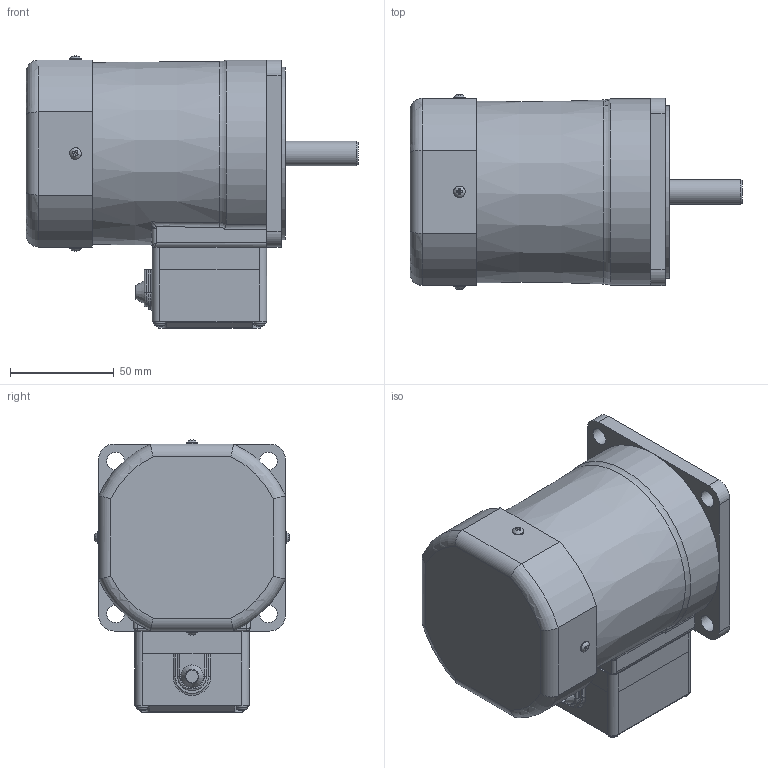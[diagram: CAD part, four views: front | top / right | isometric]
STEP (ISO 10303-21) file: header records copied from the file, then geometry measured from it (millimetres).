
FILE_DESCRIPTION(/* description */ (''),/* implementation_level */ '2;1');
FILE_NAME(/* name */ 'E:\도면작업\2016\0704) 미주향 SG 도면\3D MOTOR\TERMINAL BOX TYPE\INDUCTION TERMINAL BOX\SG9I60S_-T1.stp',/* time_stamp */ '2017-01-23T18:57:55+09:00',/* author */ ('jy-jung'),/* organization */ (''),/* preprocessor_version */ 'ST-DEVELOPER v15.6',/* originating_system */ 'Autodesk Inventor 2015',/* authorisation */ '');
FILE_SCHEMA (('AUTOMOTIVE_DESIGN { 1 0 10303 214 3 1 1 }'));
Length unit declared in the file: millimetre
Products named in the file (1): 부품1
Bounding box: 159.8 x 93.89 x 130.95 mm (x, y, z)
Volume: 924224.8 mm3; surface area: 67172.5 mm2
Topology: 1 solids, 6 shells, 352 faces, 914 edges, 585 vertices
Faces by surface type: plane 172, cylinder 70, cone 48, torus 36, bspline 22, sphere 4
Full cylindrical faces by diameter (mm): 3 x4, 3.5 x4, 5.6 x4, 8 x1, 8.5 x4, 12 x1, 40 x1, 83 x1
Entity records: 11922 total; most frequent: CARTESIAN_POINT 3488, ORIENTED_EDGE 1702, DIRECTION 1627, EDGE_CURVE 851, AXIS2_PLACEMENT_3D 620, VERTEX_POINT 574, EDGE_LOOP 429, LINE 387
